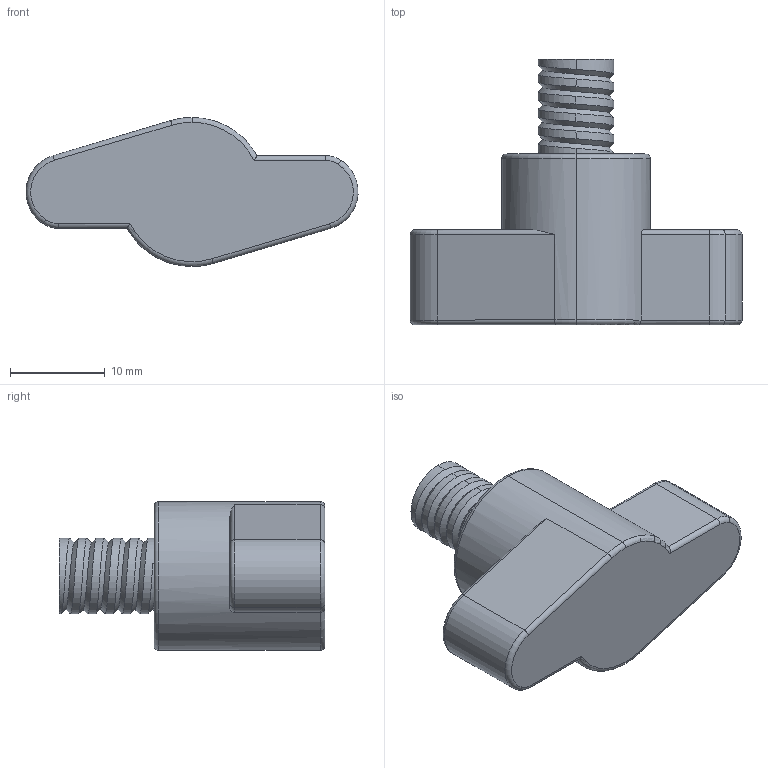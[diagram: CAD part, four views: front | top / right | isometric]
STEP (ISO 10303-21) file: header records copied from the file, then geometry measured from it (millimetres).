
FILE_DESCRIPTION (( 'STEP AP203' ), '1' );
FILE_NAME ('AP-2061-35-M8-10.STEP', '2015-11-23T07:23:24', ( '' ), ( '' ), 'SwSTEP 2.0', 'SolidWorks 2014', '' );
FILE_SCHEMA (( 'CONFIG_CONTROL_DESIGN' ));
Length unit declared in the file: millimetre
Products named in the file (1): AP-2061-35-M8-10
Bounding box: 34.99 x 28 x 15.7 mm (x, y, z)
Volume: 4494.4 mm3; surface area: 3527.6 mm2
Topology: 1 solids, 1 shells, 80 faces, 205 edges, 129 vertices
Faces by surface type: cylinder 39, plane 26, torus 13, bspline 2
Entity records: 2989 total; most frequent: CARTESIAN_POINT 996, DIRECTION 414, ORIENTED_EDGE 410, EDGE_CURVE 205, AXIS2_PLACEMENT_3D 162, VERTEX_POINT 129, LINE 90, VECTOR 90
